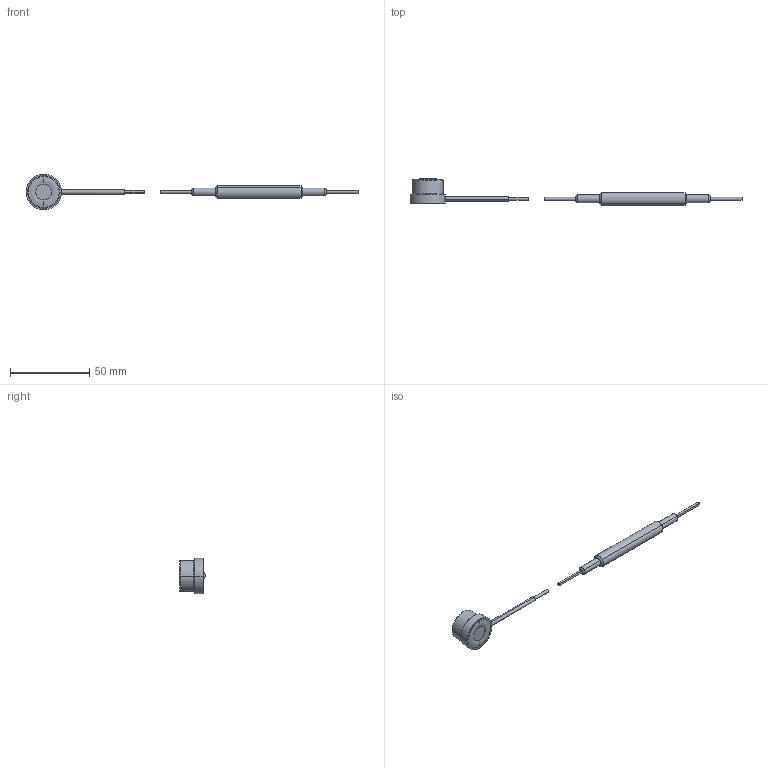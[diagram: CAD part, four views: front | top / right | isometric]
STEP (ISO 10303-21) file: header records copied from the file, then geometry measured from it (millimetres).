
FILE_DESCRIPTION(('STEP AP203'),'1');
FILE_NAME('C:/TPO v2/SharedFS/Outgoing/burster_8402-6050_c380p1xprnh2o17ovmpio3odx.stp','2013-08-27T15:25:07',('TraceParts'),('TraceParts S.A.'),'XStep 1.0',' ',' ');
FILE_SCHEMA(('CONFIG_CONTROL_DESIGN'));
Length unit declared in the file: millimetre
Products named in the file (2): 1; 2
Bounding box: 209.7 x 16.66 x 22.4 mm (x, y, z)
Volume: 8889.3 mm3; surface area: 4311.8 mm2
Topology: 2 solids, 2 shells, 50 faces, 112 edges, 73 vertices
Faces by surface type: cylinder 20, plane 11, torus 8, cone 8, bspline 2, sphere 1
Entity records: 1625 total; most frequent: CARTESIAN_POINT 363, DIRECTION 283, ORIENTED_EDGE 224, AXIS2_PLACEMENT_3D 127, EDGE_CURVE 112, CIRCLE 77, VERTEX_POINT 73, EDGE_LOOP 57
